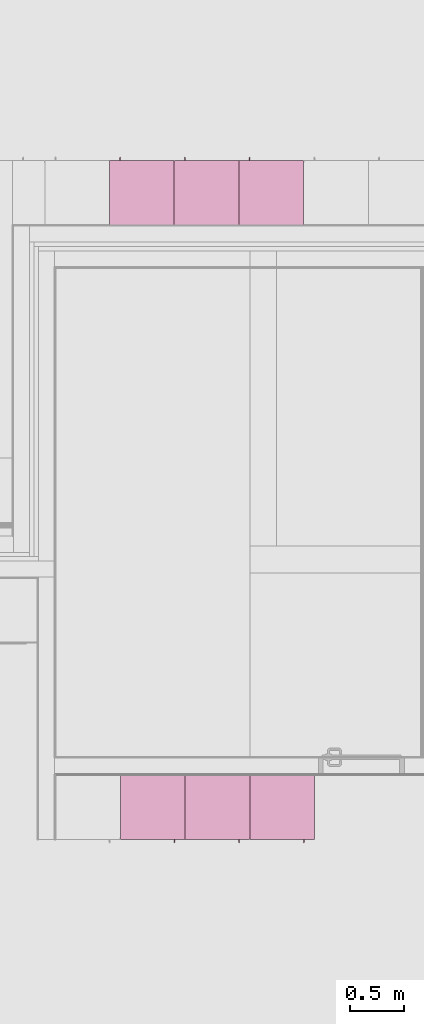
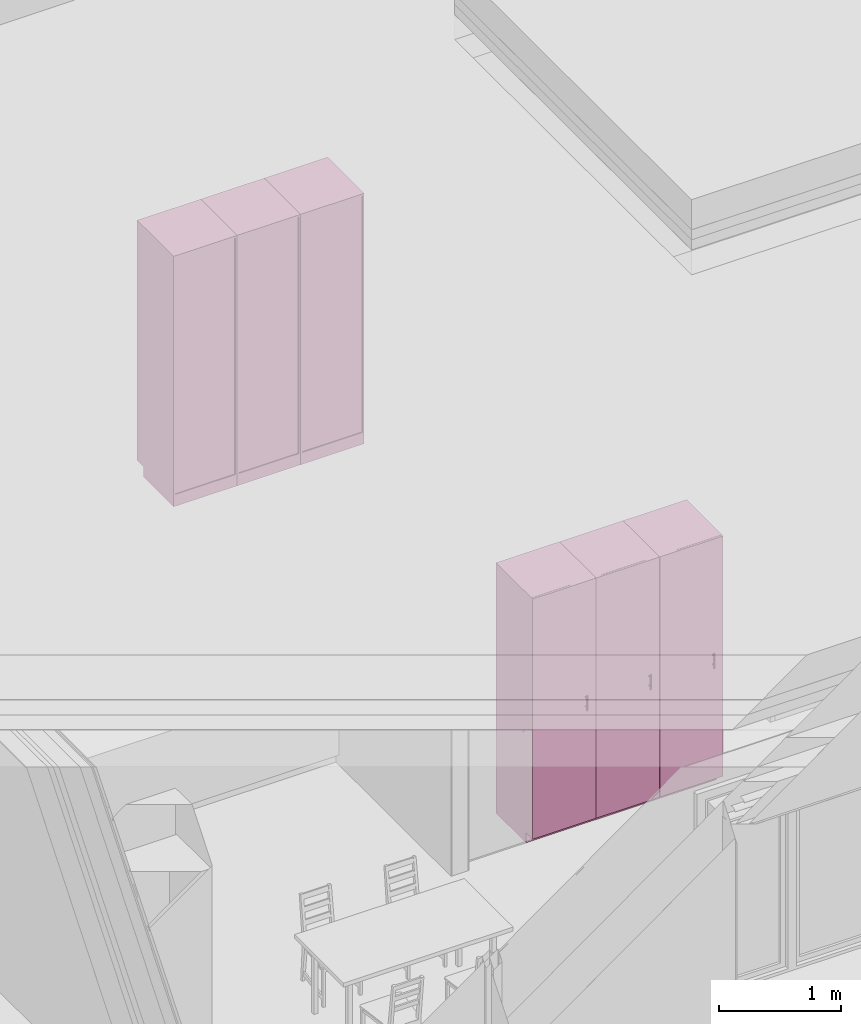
# One storey, part 34 of 36: 6 furniture elements.
"""IFC4 building model written with IfcOpenShell, lengths in millimetres."""

from ifc_helpers import new_model, entity, si_unit, converted_unit, derived_unit, direction, frame, origin_with_axes, place, context, subcontext, project, spatial, polygons, source, transform, mapped, type_object, element, save


model = new_model("IFC4")

# Units and contexts
model_context = context("Model", 3, precision=0.01, world=origin_with_axes(), true_north=direction((0.0, 1.0)))
body_context = subcontext(model_context, "Body", "Model", "MODEL_VIEW")
ifc_project = project(units=[si_unit("LENGTHUNIT", "METRE", prefix="MILLI"), si_unit("AREAUNIT", "SQUARE_METRE"), si_unit("VOLUMEUNIT", "CUBIC_METRE"), converted_unit("PLANEANGLEUNIT", "DEGREE", entity("IfcPlaneAngleMeasure", 0.0174532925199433), si_unit("PLANEANGLEUNIT", "RADIAN"), dimensions=[0, 0, 0, 0, 0, 0, 0]), converted_unit("TIMEUNIT", "Year", entity("IfcTimeMeasure", 31557600.0), si_unit("TIMEUNIT", "SECOND"), dimensions=[0, 0, 1, 0, 0, 0, 0]), si_unit("MASSUNIT", "GRAM", prefix="KILO"), si_unit("THERMODYNAMICTEMPERATUREUNIT", "DEGREE_CELSIUS"), si_unit("LUMINOUSINTENSITYUNIT", "LUMEN"), si_unit("ENERGYUNIT", "JOULE", prefix="MEGA"), derived_unit("THERMALCONDUCTANCEUNIT", [(si_unit("POWERUNIT", "WATT"), 1), (si_unit("LENGTHUNIT", "METRE"), -1), (si_unit("THERMODYNAMICTEMPERATUREUNIT", "KELVIN"), -1)]), derived_unit("SPECIFICHEATCAPACITYUNIT", [(si_unit("ENERGYUNIT", "JOULE"), 1), (si_unit("MASSUNIT", "GRAM", prefix="KILO"), -1), (si_unit("THERMODYNAMICTEMPERATUREUNIT", "KELVIN"), -1)]), derived_unit("MASSDENSITYUNIT", [(si_unit("MASSUNIT", "GRAM", prefix="KILO"), 1), (si_unit("VOLUMEUNIT", "CUBIC_METRE"), -1)])], contexts=[model_context])

# Site, building, storey
site_placement = place(None, origin_with_axes())
site = spatial("IfcSite", under=ifc_project, at=site_placement, Name="Gelände", CompositionType="ELEMENT")
building_placement = place(site_placement, origin_with_axes())
building = spatial("IfcBuilding", under=site, at=building_placement, Name="Gebäude", CompositionType="ELEMENT")
storey_placement = place(building_placement, frame((0.0, 0.0, 8700.0), z_axis=(0.0, 0.0, 1.0), x_axis=(1.0, 0.0, 0.0)))
storey = spatial("IfcBuildingStorey", under=building, at=storey_placement, Name="Attika", CompositionType="ELEMENT", Elevation=8700.0)

# Furniture
furniture_type = type_object("IfcFurnitureType", Name="Stehender Schrank Block 27", AssemblyPlace="NOTDEFINED", PredefinedType="NOTDEFINED")
shared_shape = source(origin_with_axes(), body_context, "Body", "Tessellation", [
    polygons([(501.8682408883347, -597.9999999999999, 1352.799038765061), (502.7101007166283, -597.9999999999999, 1352.573463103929), (503.4999999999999, -597.9999999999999, 1352.205127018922), (504.2139380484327, -597.9999999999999, 1351.705222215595), (504.8302222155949, -597.9999999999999, 1351.088938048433), (505.3301270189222, -597.9999999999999, 1350.375), (505.6984631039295, -597.9999999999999, 1349.585100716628), (505.924038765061, -597.9999999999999, 1348.743240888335), (506.0, -597.9999999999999, 1347.875), (505.924038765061, -597.9999999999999, 1347.006759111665), (505.6984631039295, -597.9999999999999, 1346.164899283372), (505.3301270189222, -597.9999999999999, 1345.375), (504.8302222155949, -597.9999999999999, 1344.661061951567), (504.2139380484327, -597.9999999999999, 1344.044777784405), (503.4999999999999, -597.9999999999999, 1343.544872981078), (502.7101007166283, -597.9999999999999, 1343.176536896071), (501.8682408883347, -597.9999999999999, 1342.950961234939), (501.0, -597.9999999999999, 1342.875), (500.1317591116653, -597.9999999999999, 1342.950961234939), (499.2898992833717, -597.9999999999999, 1343.176536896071), (498.5, -597.9999999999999, 1343.544872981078), (497.7860619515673, -597.9999999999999, 1344.044777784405), (497.1697777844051, -597.9999999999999, 1344.661061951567), (496.6698729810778, -597.9999999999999, 1345.375), (496.3015368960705, -597.9999999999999, 1346.164899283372), (496.075961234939, -597.9999999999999, 1347.006759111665), (496.0, -597.9999999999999, 1347.875), (496.075961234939, -597.9999999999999, 1348.743240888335), (496.3015368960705, -597.9999999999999, 1349.585100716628), (496.6698729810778, -597.9999999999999, 1350.375), (497.1697777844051, -597.9999999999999, 1351.088938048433), (497.7860619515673, -597.9999999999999, 1351.705222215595), (498.5, -597.9999999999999, 1352.205127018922), (499.2898992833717, -597.9999999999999, 1352.573463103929), (500.1317591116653, -597.9999999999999, 1352.799038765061), (501.0, -597.9999999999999, 1352.875), (501.8682408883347, -622.9999999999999, 1352.799038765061), (502.7101007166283, -622.9999999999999, 1352.573463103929), (503.4999999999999, -622.9999999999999, 1352.205127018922), (504.2139380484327, -622.9999999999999, 1351.705222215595), (504.8302222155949, -622.9999999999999, 1351.088938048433), (505.3301270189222, -622.9999999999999, 1350.375), (505.6984631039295, -622.9999999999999, 1349.585100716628), (505.924038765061, -622.9999999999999, 1348.743240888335), (506.0, -622.9999999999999, 1347.875), (505.924038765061, -622.9999999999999, 1347.006759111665), (505.6984631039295, -622.9999999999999, 1346.164899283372), (505.3301270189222, -622.9999999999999, 1345.375), (504.8302222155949, -622.9999999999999, 1344.661061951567), (504.2139380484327, -622.9999999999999, 1344.044777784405), (503.4999999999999, -622.9999999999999, 1343.544872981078), (502.7101007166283, -622.9999999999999, 1343.176536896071), (501.8682408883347, -622.9999999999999, 1342.950961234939), (501.0, -622.9999999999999, 1342.875), (500.1317591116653, -622.9999999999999, 1342.950961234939), (499.2898992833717, -622.9999999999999, 1343.176536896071), (498.5, -622.9999999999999, 1343.544872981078), (497.7860619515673, -622.9999999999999, 1344.044777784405), (497.1697777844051, -622.9999999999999, 1344.661061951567), (496.6698729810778, -622.9999999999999, 1345.375), (496.3015368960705, -622.9999999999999, 1346.164899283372), (496.075961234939, -622.9999999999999, 1347.006759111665), (496.0, -622.9999999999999, 1347.875), (496.075961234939, -622.9999999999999, 1348.743240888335), (496.3015368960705, -622.9999999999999, 1349.585100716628), (496.6698729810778, -622.9999999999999, 1350.375), (497.1697777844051, -622.9999999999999, 1351.088938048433), (497.7860619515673, -622.9999999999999, 1351.705222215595), (498.5, -622.9999999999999, 1352.205127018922), (499.2898992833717, -622.9999999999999, 1352.573463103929), (500.1317591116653, -622.9999999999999, 1352.799038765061), (501.0, -622.9999999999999, 1352.875)], [[[1, 2, 3, 4, 5, 6, 7, 8, 9, 10, 11, 12, 13, 14, 15, 16, 17, 18, 19, 20, 21, 22, 23, 24, 25, 26, 27, 28, 29, 30, 31, 32, 33, 34, 35, 36]], [[2, 1, 37, 38]], [[3, 2, 38, 39]], [[4, 3, 39, 40]], [[5, 4, 40, 41]], [[6, 5, 41, 42]], [[7, 6, 42, 43]], [[8, 7, 43, 44]], [[9, 8, 44, 45]], [[10, 9, 45, 46]], [[11, 10, 46, 47]], [[12, 11, 47, 48]], [[13, 12, 48, 49]], [[14, 13, 49, 50]], [[15, 14, 50, 51]], [[16, 15, 51, 52]], [[17, 16, 52, 53]], [[18, 17, 53, 54]], [[19, 18, 54, 55]], [[20, 19, 55, 56]], [[21, 20, 56, 57]], [[22, 21, 57, 58]], [[23, 22, 58, 59]], [[24, 23, 59, 60]], [[25, 24, 60, 61]], [[26, 25, 61, 62]], [[27, 26, 62, 63]], [[28, 27, 63, 64]], [[29, 28, 64, 65]], [[30, 29, 65, 66]], [[31, 30, 66, 67]], [[32, 31, 67, 68]], [[33, 32, 68, 69]], [[34, 33, 69, 70]], [[35, 34, 70, 71]], [[36, 35, 71, 72]], [[1, 36, 72, 37]], [[37, 72, 71, 70, 69, 68, 67, 66, 65, 64, 63, 62, 61, 60, 59, 58, 57, 56, 55, 54, 53, 52, 51, 50, 49, 48, 47, 46, 45, 44, 43, 42, 41, 40, 39, 38]]], closed=True),
    polygons([(501.8682408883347, -597.9999999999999, 1249.200961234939), (501.0, -597.9999999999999, 1249.125), (500.1317591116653, -597.9999999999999, 1249.200961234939), (499.2898992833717, -597.9999999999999, 1249.426536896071), (498.5, -597.9999999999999, 1249.794872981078), (497.7860619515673, -597.9999999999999, 1250.294777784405), (497.1697777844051, -597.9999999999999, 1250.911061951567), (496.6698729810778, -597.9999999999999, 1251.625), (496.3015368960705, -597.9999999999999, 1252.414899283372), (496.075961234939, -597.9999999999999, 1253.256759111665), (496.0, -597.9999999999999, 1254.125), (496.075961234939, -597.9999999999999, 1254.993240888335), (496.3015368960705, -597.9999999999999, 1255.835100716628), (496.6698729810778, -597.9999999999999, 1256.625), (497.1697777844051, -597.9999999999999, 1257.338938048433), (497.7860619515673, -597.9999999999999, 1257.955222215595), (498.5, -597.9999999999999, 1258.455127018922), (499.2898992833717, -597.9999999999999, 1258.823463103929), (500.1317591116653, -597.9999999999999, 1259.049038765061), (501.0, -597.9999999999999, 1259.125), (501.8682408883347, -597.9999999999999, 1259.049038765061), (502.7101007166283, -597.9999999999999, 1258.823463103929), (503.4999999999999, -597.9999999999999, 1258.455127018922), (504.2139380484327, -597.9999999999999, 1257.955222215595), (504.8302222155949, -597.9999999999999, 1257.338938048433), (505.3301270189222, -597.9999999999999, 1256.625), (505.6984631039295, -597.9999999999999, 1255.835100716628), (505.924038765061, -597.9999999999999, 1254.993240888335), (506.0, -597.9999999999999, 1254.125), (505.924038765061, -597.9999999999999, 1253.256759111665), (505.6984631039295, -597.9999999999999, 1252.414899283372), (505.3301270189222, -597.9999999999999, 1251.625), (504.8302222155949, -597.9999999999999, 1250.911061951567), (504.2139380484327, -597.9999999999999, 1250.294777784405), (503.4999999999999, -597.9999999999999, 1249.794872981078), (502.7101007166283, -597.9999999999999, 1249.426536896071), (501.8682408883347, -622.9999999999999, 1249.200961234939), (501.0, -622.9999999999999, 1249.125), (500.1317591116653, -622.9999999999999, 1249.200961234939), (499.2898992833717, -622.9999999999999, 1249.426536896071), (498.5, -622.9999999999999, 1249.794872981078), (497.7860619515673, -622.9999999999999, 1250.294777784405), (497.1697777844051, -622.9999999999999, 1250.911061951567), (496.6698729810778, -622.9999999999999, 1251.625), (496.3015368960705, -622.9999999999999, 1252.414899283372), (496.075961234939, -622.9999999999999, 1253.256759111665), (496.0, -622.9999999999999, 1254.125), (496.075961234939, -622.9999999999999, 1254.993240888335), (496.3015368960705, -622.9999999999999, 1255.835100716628), (496.6698729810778, -622.9999999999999, 1256.625), (497.1697777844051, -622.9999999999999, 1257.338938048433), (497.7860619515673, -622.9999999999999, 1257.955222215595), (498.5, -622.9999999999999, 1258.455127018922), (499.2898992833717, -622.9999999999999, 1258.823463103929), (500.1317591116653, -622.9999999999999, 1259.049038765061), (501.0, -622.9999999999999, 1259.125), (501.8682408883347, -622.9999999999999, 1259.049038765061), (502.7101007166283, -622.9999999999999, 1258.823463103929), (503.4999999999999, -622.9999999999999, 1258.455127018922), (504.2139380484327, -622.9999999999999, 1257.955222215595), (504.8302222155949, -622.9999999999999, 1257.338938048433), (505.3301270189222, -622.9999999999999, 1256.625), (505.6984631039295, -622.9999999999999, 1255.835100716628), (505.924038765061, -622.9999999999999, 1254.993240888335), (506.0, -622.9999999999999, 1254.125), (505.924038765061, -622.9999999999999, 1253.256759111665), (505.6984631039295, -622.9999999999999, 1252.414899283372), (505.3301270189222, -622.9999999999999, 1251.625), (504.8302222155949, -622.9999999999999, 1250.911061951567), (504.2139380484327, -622.9999999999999, 1250.294777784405), (503.4999999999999, -622.9999999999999, 1249.794872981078), (502.7101007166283, -622.9999999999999, 1249.426536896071)], [[[1, 2, 3, 4, 5, 6, 7, 8, 9, 10, 11, 12, 13, 14, 15, 16, 17, 18, 19, 20, 21, 22, 23, 24, 25, 26, 27, 28, 29, 30, 31, 32, 33, 34, 35, 36]], [[1, 37, 38, 2]], [[2, 38, 39, 3]], [[3, 39, 40, 4]], [[4, 40, 41, 5]], [[5, 41, 42, 6]], [[6, 42, 43, 7]], [[7, 43, 44, 8]], [[8, 44, 45, 9]], [[9, 45, 46, 10]], [[10, 46, 47, 11]], [[11, 47, 48, 12]], [[12, 48, 49, 13]], [[13, 49, 50, 14]], [[14, 50, 51, 15]], [[15, 51, 52, 16]], [[16, 52, 53, 17]], [[17, 53, 54, 18]], [[18, 54, 55, 19]], [[19, 55, 56, 20]], [[20, 56, 57, 21]], [[21, 57, 58, 22]], [[22, 58, 59, 23]], [[23, 59, 60, 24]], [[24, 60, 61, 25]], [[25, 61, 62, 26]], [[26, 62, 63, 27]], [[27, 63, 64, 28]], [[28, 64, 65, 29]], [[29, 65, 66, 30]], [[30, 66, 67, 31]], [[31, 67, 68, 32]], [[32, 68, 69, 33]], [[33, 69, 70, 34]], [[34, 70, 71, 35]], [[35, 71, 72, 36]], [[36, 72, 37, 1]], [[37, 72, 71, 70, 69, 68, 67, 66, 65, 64, 63, 62, 61, 60, 59, 58, 57, 56, 55, 54, 53, 52, 51, 50, 49, 48, 47, 46, 45, 44, 43, 42, 41, 40, 39, 38]]], closed=True),
    polygons([(501.8682408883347, -618.0759612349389, 1226.0), (502.7101007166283, -618.3015368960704, 1226.0), (503.4999999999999, -618.6698729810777, 1226.0), (504.2139380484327, -619.1697777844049, 1226.0), (504.8302222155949, -619.7860619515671, 1226.0), (505.3301270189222, -620.4999999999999, 1226.0), (505.6984631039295, -621.2898992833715, 1226.0), (505.924038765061, -622.1317591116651, 1226.0), (506.0, -622.9999999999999, 1226.0), (505.924038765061, -623.8682408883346, 1226.0), (505.6984631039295, -624.7101007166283, 1226.0), (505.3301270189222, -625.4999999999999, 1226.0), (504.8302222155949, -626.2139380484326, 1226.0), (504.2139380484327, -626.8302222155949, 1226.0), (503.4999999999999, -627.3301270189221, 1226.0), (502.7101007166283, -627.6984631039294, 1226.0), (501.8682408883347, -627.924038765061, 1226.0), (501.0, -627.9999999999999, 1226.0), (500.1317591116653, -627.924038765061, 1226.0), (499.2898992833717, -627.6984631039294, 1226.0), (498.5, -627.3301270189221, 1226.0), (497.7860619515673, -626.8302222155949, 1226.0), (497.1697777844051, -626.2139380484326, 1226.0), (496.6698729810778, -625.4999999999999, 1226.0), (496.3015368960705, -624.7101007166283, 1226.0), (496.075961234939, -623.8682408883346, 1226.0), (496.0, -622.9999999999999, 1226.0), (496.075961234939, -622.1317591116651, 1226.0), (496.3015368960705, -621.2898992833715, 1226.0), (496.6698729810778, -620.4999999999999, 1226.0), (497.1697777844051, -619.7860619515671, 1226.0), (497.7860619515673, -619.1697777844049, 1226.0), (498.5, -618.6698729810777, 1226.0), (499.2898992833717, -618.3015368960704, 1226.0), (500.1317591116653, -618.0759612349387, 1226.0), (501.0, -617.9999999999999, 1226.0), (501.8682408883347, -618.0759612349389, 1376.0), (502.7101007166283, -618.3015368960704, 1376.0), (503.5000000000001, -618.6698729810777, 1376.0), (504.2139380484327, -619.1697777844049, 1376.0), (504.8302222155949, -619.7860619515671, 1376.0), (505.3301270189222, -620.4999999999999, 1376.0), (505.6984631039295, -621.2898992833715, 1376.0), (505.9240387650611, -622.1317591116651, 1376.0), (506.0, -622.9999999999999, 1376.0), (505.9240387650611, -623.8682408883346, 1376.0), (505.6984631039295, -624.7101007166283, 1376.0), (505.3301270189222, -625.4999999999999, 1376.0), (504.8302222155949, -626.2139380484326, 1376.0), (504.2139380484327, -626.8302222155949, 1376.0), (503.5000000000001, -627.3301270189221, 1376.0), (502.7101007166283, -627.6984631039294, 1376.0), (501.8682408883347, -627.924038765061, 1376.0), (501.0, -627.9999999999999, 1376.0), (500.1317591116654, -627.924038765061, 1376.0), (499.2898992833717, -627.6984631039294, 1376.0), (498.5, -627.3301270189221, 1376.0), (497.7860619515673, -626.8302222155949, 1376.0), (497.1697777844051, -626.2139380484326, 1376.0), (496.6698729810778, -625.4999999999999, 1376.0), (496.3015368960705, -624.7101007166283, 1376.0), (496.075961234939, -623.8682408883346, 1376.0), (496.0, -622.9999999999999, 1376.0), (496.075961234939, -622.1317591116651, 1376.0), (496.3015368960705, -621.2898992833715, 1376.0), (496.6698729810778, -620.4999999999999, 1376.0), (497.1697777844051, -619.7860619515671, 1376.0), (497.7860619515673, -619.1697777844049, 1376.0), (498.5, -618.6698729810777, 1376.0), (499.2898992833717, -618.3015368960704, 1376.0), (500.1317591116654, -618.0759612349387, 1376.0), (501.0, -617.9999999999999, 1376.0)], [[[1, 2, 3, 4, 5, 6, 7, 8, 9, 10, 11, 12, 13, 14, 15, 16, 17, 18, 19, 20, 21, 22, 23, 24, 25, 26, 27, 28, 29, 30, 31, 32, 33, 34, 35, 36]], [[2, 1, 37, 38]], [[3, 2, 38, 39]], [[4, 3, 39, 40]], [[5, 4, 40, 41]], [[6, 5, 41, 42]], [[7, 6, 42, 43]], [[8, 7, 43, 44]], [[9, 8, 44, 45]], [[10, 9, 45, 46]], [[11, 10, 46, 47]], [[12, 11, 47, 48]], [[13, 12, 48, 49]], [[14, 13, 49, 50]], [[15, 14, 50, 51]], [[16, 15, 51, 52]], [[17, 16, 52, 53]], [[18, 17, 53, 54]], [[19, 18, 54, 55]], [[20, 19, 55, 56]], [[21, 20, 56, 57]], [[22, 21, 57, 58]], [[23, 22, 58, 59]], [[24, 23, 59, 60]], [[25, 24, 60, 61]], [[26, 25, 61, 62]], [[27, 26, 62, 63]], [[28, 27, 63, 64]], [[29, 28, 64, 65]], [[30, 29, 65, 66]], [[31, 30, 66, 67]], [[32, 31, 67, 68]], [[33, 32, 68, 69]], [[34, 33, 69, 70]], [[35, 34, 70, 71]], [[36, 35, 71, 72]], [[1, 36, 72, 37]], [[37, 72, 71, 70, 69, 68, 67, 66, 65, 64, 63, 62, 61, 60, 59, 58, 57, 56, 55, 54, 53, 52, 51, 50, 49, 48, 47, 46, 45, 44, 43, 42, 41, 40, 39, 38]]], closed=True),
    polygons([(1.0, -580.0, 101.0), (599.0, -580.0, 101.0), (599.0, -598.0, 101.0), (1.0, -598.0, 101.0), (1.0, -579.9999999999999, 2499.0), (599.0, -579.9999999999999, 2499.0), (599.0, -597.9999999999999, 2499.0), (1.0, -597.9999999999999, 2499.0)], [[[1, 2, 3, 4]], [[1, 5, 6, 2]], [[2, 6, 7, 3]], [[4, 3, 7, 8]], [[5, 1, 4, 8]], [[6, 5, 8, 7]]], closed=True),
    polygons([(18.0, -580.0, 100.0), (582.0, -580.0, 100.0), (582.0, -580.0, 118.0), (18.0, -580.0, 118.0), (18.0, 0.0, 100.0), (582.0, 0.0, 100.0), (582.0, 0.0, 118.0), (18.0, 0.0, 118.0)], [[[1, 2, 3, 4]], [[1, 5, 6, 2]], [[2, 6, 7, 3]], [[4, 3, 7, 8]], [[5, 1, 4, 8]], [[6, 5, 8, 7]]], closed=True),
    polygons([(18.0, -580.0, 2482.0), (582.0, -580.0, 2482.0), (582.0, -580.0, 2500.0), (18.0, -580.0, 2500.0), (18.0, 0.0, 2482.0), (582.0, 0.0, 2482.0), (582.0, 0.0, 2500.0), (18.0, 0.0, 2500.0)], [[[1, 2, 3, 4]], [[1, 5, 6, 2]], [[2, 6, 7, 3]], [[4, 3, 7, 8]], [[5, 1, 4, 8]], [[6, 5, 8, 7]]], closed=True),
    polygons([(0.0, 0.0, 100.0), (0.0, -580.0, 100.0), (0.0, -580.0, 2500.0), (0.0, 0.0, 2500.0), (18.0, 0.0, 100.0), (18.0, -580.0, 100.0), (18.0, -580.0, 2500.0), (18.0, 0.0, 2500.0)], [[[1, 2, 3, 4]], [[1, 5, 6, 2]], [[2, 6, 7, 3]], [[4, 3, 7, 8]], [[5, 1, 4, 8]], [[6, 5, 8, 7]]], closed=True),
    polygons([(600.0, -580.0, 100.0), (600.0, 0.0, 100.0), (600.0, 0.0, 2500.0), (600.0, -580.0, 2500.0), (582.0, -580.0, 100.0), (582.0, 0.0, 100.0), (582.0, 0.0, 2500.0), (582.0, -580.0, 2500.0)], [[[1, 2, 3, 4]], [[1, 5, 6, 2]], [[2, 6, 7, 3]], [[4, 3, 7, 8]], [[5, 1, 4, 8]], [[6, 5, 8, 7]]], closed=True),
    polygons([(582.0, -9.0, 118.0), (18.00000000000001, -9.0, 118.0), (18.00000000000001, -9.0, 2482.0), (582.0, -9.0, 2482.0), (582.0, -18.0, 118.0), (18.00000000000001, -18.0, 118.0), (18.00000000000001, -18.0, 2482.0), (582.0, -18.0, 2482.0)], [[[1, 2, 3, 4]], [[1, 5, 6, 2]], [[2, 6, 7, 3]], [[4, 3, 7, 8]], [[5, 1, 4, 8]], [[6, 5, 8, 7]]], closed=True),
    polygons([(0.0, -490.0, 0.0), (600.0, -490.0, 0.0), (600.0, -490.0, 100.0), (0.0, -490.0, 100.0), (0.0, 0.0, 0.0), (600.0, 0.0, 0.0), (600.0, 0.0, 100.0), (0.0, 0.0, 100.0)], [[[1, 2, 3, 4]], [[1, 5, 6, 2]], [[2, 6, 7, 3]], [[4, 3, 7, 8]], [[5, 1, 4, 8]], [[6, 5, 8, 7]]], closed=True),
])
for number, where, z_axis, x_axis in (
    (1, (10228.99744477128, 29747.59728131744, 150.0000000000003), (0.0, 0.0, 1.0), (1.0, 0.0, 0.0)),
    (2, (9628.997444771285, 29747.59728131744, 150.0000000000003), (0.0, 0.0, 1.0), (1.0, 0.0, 0.0)),
    (3, (9028.997444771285, 29747.59728131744, 150.0000000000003), (0.0, 0.0, 1.0), (1.0, 0.0, 0.0)),
    (4, (10728.99744477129, 34847.59728131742, 150.0000000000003), (0.0, 0.0, 1.0), (-1.0, 0.0, 0.0)),
    (5, (10128.99744477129, 34847.59728131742, 150.0000000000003), (0.0, 0.0, 1.0), (-1.0, 0.0, 0.0)),
    (6, (9528.997444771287, 34847.59728131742, 150.0000000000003), (0.0, 0.0, 1.0), (-1.0, 0.0, 0.0)),
):
    element("IfcFurniture", number, at=place(storey_placement, frame(where, z_axis=z_axis, x_axis=x_axis)), inside=storey, type_object=furniture_type, Name="Möbel-021", PredefinedType="NOTDEFINED", context=body_context, shape_type="MappedRepresentation", body=[
        mapped(shared_shape, transform((0.0, 0.0, 0.0))),
    ])

save(model, "model.ifc")
